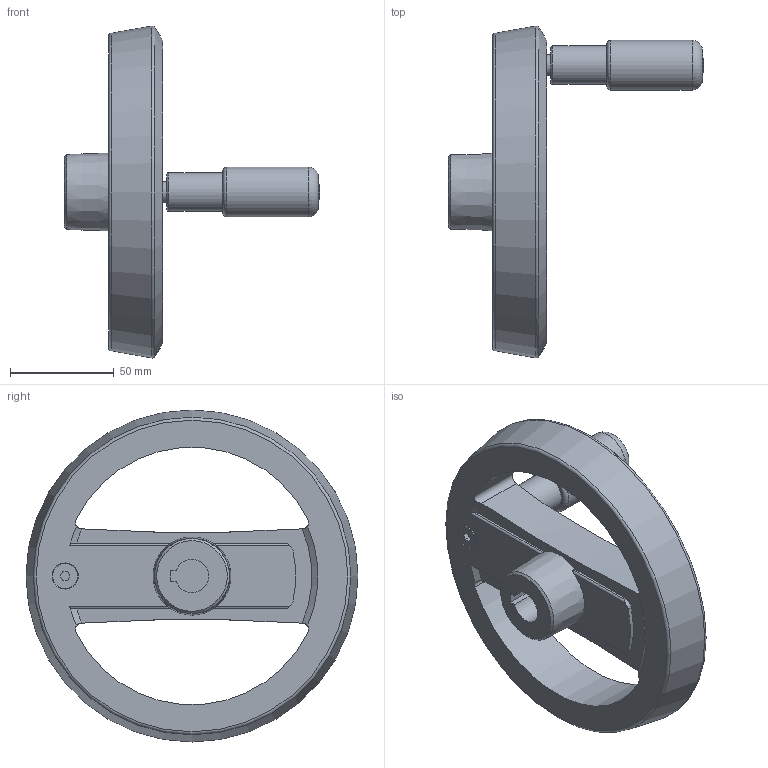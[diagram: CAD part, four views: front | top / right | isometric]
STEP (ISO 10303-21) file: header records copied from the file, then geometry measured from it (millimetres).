
FILE_DESCRIPTION( ( 'STEP AP203' ), '1' );
FILE_NAME( 'C:/Temp/Ganter_Step_05_03_2020/data/1_3/gn_924_3/gn_924_3_k/Handwheel with retractable handle GN 924.3-160-K16-R-SW (activated).stp', '2020-03-05T10:41:16', ( 'License CC BY-ND 4.0' ), ( 'CADENAS' ), ' ', 'PARTsolutions', ' ' );
FILE_SCHEMA( ( 'CONFIG_CONTROL_DESIGN' ) );
Length unit declared in the file: millimetre
Products named in the file (3): Handwheel with retractable handle GN 924.3-160-K16-R-SW (activated); _Umleggriff-Handrad GN 924.3-160-K16-R-SW-1; _Umleggriff-Handrad GN 924.3-160-K16-R-SW-2
Assembly tree (2 placements, depth 2):
  Handwheel with retractable handle GN 924.3-160-K16-R-SW (activated)
    _Umleggriff-Handrad GN 924.3-160-K16-R-SW-1
    _Umleggriff-Handrad GN 924.3-160-K16-R-SW-2
Bounding box: 122.7 x 159.68 x 159.68 mm (x, y, z)
Volume: 292405.8 mm3; surface area: 65577.7 mm2
Topology: 2 solids, 2 shells, 111 faces, 289 edges, 186 vertices
Faces by surface type: plane 49, cylinder 41, cone 12, torus 7, sphere 2
Full cylindrical faces by diameter (mm): 4 x4, 5 x1, 10 x1, 12 x1, 18.5 x1, 24 x1, 25 x1, 26.6 x1
Entity records: 3664 total; most frequent: CARTESIAN_POINT 970, DIRECTION 538, ORIENTED_EDGE 508, EDGE_CURVE 254, AXIS2_PLACEMENT_3D 215, VERTEX_POINT 181, EDGE_LOOP 150, FACE_OUTER_BOUND 129
